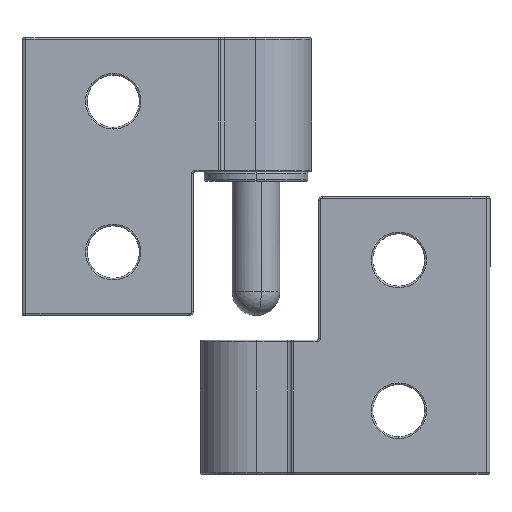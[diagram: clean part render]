
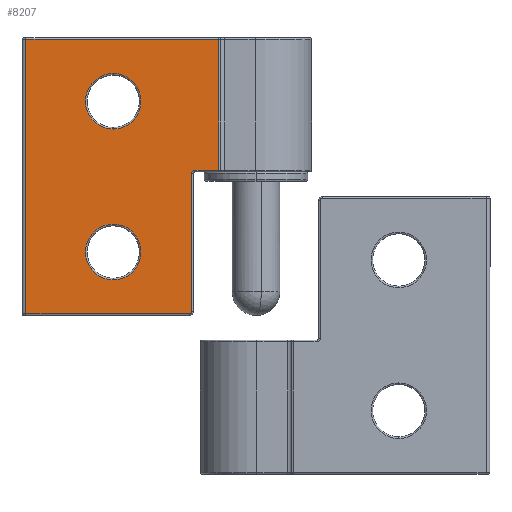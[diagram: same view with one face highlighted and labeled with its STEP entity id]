
A CAD part, front view. The second image highlights one B-rep face of the part: STEP entity #8207.
In plain terms, the highlighted planar face has unit normal (0, -1, 0).
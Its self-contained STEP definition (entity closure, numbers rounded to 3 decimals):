
#205 = CARTESIAN_POINT ( 'NONE',  ( -4.693, -8.4, 0.8 ) ) ;
#314 = ORIENTED_EDGE ( 'NONE', *, *, #11464, .T. ) ;
#417 = CIRCLE ( 'NONE', #7999, 3.5 ) ;
#663 = ORIENTED_EDGE ( 'NONE', *, *, #11559, .T. ) ;
#788 = CARTESIAN_POINT ( 'NONE',  ( -18., -8.4, 6. ) ) ;
#923 = VERTEX_POINT ( 'NONE', #11257 ) ;
#1021 = CARTESIAN_POINT ( 'NONE',  ( -4.693, -8.4, 17.3 ) ) ;
#1042 = EDGE_CURVE ( 'NONE', #3013, #5139, #11842, .T. ) ;
#1138 = CARTESIAN_POINT ( 'NONE',  ( -29.5, -8.4, 17.5 ) ) ;
#1333 = DIRECTION ( 'NONE',  ( 0., 0., 1. ) ) ;
#1477 = ORIENTED_EDGE ( 'NONE', *, *, #6674, .T. ) ;
#1500 = EDGE_CURVE ( 'NONE', #7447, #923, #2144, .T. ) ;
#1663 = LINE ( 'NONE', #10480, #4061 ) ;
#1726 = DIRECTION ( 'NONE',  ( 0., 0., 1. ) ) ;
#2004 = AXIS2_PLACEMENT_3D ( 'NONE', #9577, #10711, #11712 ) ;
#2144 = CIRCLE ( 'NONE', #10567, 0.4 ) ;
#2219 = EDGE_CURVE ( 'NONE', #12047, #10830, #11024, .T. ) ;
#2902 = EDGE_CURVE ( 'NONE', #10836, #6673, #3711, .T. ) ;
#2903 = ORIENTED_EDGE ( 'NONE', *, *, #2902, .T. ) ;
#3013 = VERTEX_POINT ( 'NONE', #8101 ) ;
#3202 = VERTEX_POINT ( 'NONE', #6336 ) ;
#3277 = CARTESIAN_POINT ( 'NONE',  ( -18., -8.4, -13. ) ) ;
#3279 = DIRECTION ( 'NONE',  ( 0., -1., 0. ) ) ;
#3404 = CARTESIAN_POINT ( 'NONE',  ( -18., -8.4, 9.5 ) ) ;
#3664 = FACE_BOUND ( 'NONE', #12398, .T. ) ;
#3685 = ORIENTED_EDGE ( 'NONE', *, *, #10591, .T. ) ;
#3711 = CIRCLE ( 'NONE', #6681, 3.5 ) ;
#3739 = ORIENTED_EDGE ( 'NONE', *, *, #9355, .T. ) ;
#3746 = VECTOR ( 'NONE', #12756, 1000. ) ;
#4061 = VECTOR ( 'NONE', #11480, 1000. ) ;
#4196 = CIRCLE ( 'NONE', #11568, 3.5 ) ;
#4236 = PLANE ( 'NONE',  #8740 ) ;
#4265 = DIRECTION ( 'NONE',  ( 1., 0., 0. ) ) ;
#4418 = DIRECTION ( 'NONE',  ( 0., 1., 0. ) ) ;
#4660 = CARTESIAN_POINT ( 'NONE',  ( -7.7, -8.4, 0.8 ) ) ;
#4728 = LINE ( 'NONE', #10476, #12378 ) ;
#4748 = LINE ( 'NONE', #5018, #6391 ) ;
#5018 = CARTESIAN_POINT ( 'NONE',  ( -29.5, -8.4, 17.3 ) ) ;
#5139 = VERTEX_POINT ( 'NONE', #13075 ) ;
#5407 = CARTESIAN_POINT ( 'NONE',  ( -4.693, -8.4, 17.5 ) ) ;
#5522 = CARTESIAN_POINT ( 'NONE',  ( -8.1, -8.4, 17.5 ) ) ;
#5534 = VECTOR ( 'NONE', #11779, 1000. ) ;
#5722 = DIRECTION ( 'NONE',  ( 0., 0., 1. ) ) ;
#5828 = DIRECTION ( 'NONE',  ( 0., 1., 0. ) ) ;
#5850 = VERTEX_POINT ( 'NONE', #6209 ) ;
#5855 = LINE ( 'NONE', #5522, #5534 ) ;
#6207 = ORIENTED_EDGE ( 'NONE', *, *, #1042, .T. ) ;
#6209 = CARTESIAN_POINT ( 'NONE',  ( -29., -8.4, -17.3 ) ) ;
#6336 = CARTESIAN_POINT ( 'NONE',  ( -29., -8.4, 17.3 ) ) ;
#6391 = VECTOR ( 'NONE', #13239, 1000. ) ;
#6673 = VERTEX_POINT ( 'NONE', #788 ) ;
#6674 = EDGE_CURVE ( 'NONE', #11043, #3202, #4748, .T. ) ;
#6681 = AXIS2_PLACEMENT_3D ( 'NONE', #6913, #9113, #9071 ) ;
#6913 = CARTESIAN_POINT ( 'NONE',  ( -18., -8.4, 9.5 ) ) ;
#6924 = VERTEX_POINT ( 'NONE', #205 ) ;
#7061 = EDGE_CURVE ( 'NONE', #5850, #3202, #8491, .T. ) ;
#7080 = FACE_BOUND ( 'NONE', #9901, .T. ) ;
#7447 = VERTEX_POINT ( 'NONE', #4660 ) ;
#7753 = DIRECTION ( 'NONE',  ( 0., 1., 0. ) ) ;
#7904 = CARTESIAN_POINT ( 'NONE',  ( -18., -8.4, -9.5 ) ) ;
#7999 = AXIS2_PLACEMENT_3D ( 'NONE', #3404, #10601, #10554 ) ;
#8028 = FACE_OUTER_BOUND ( 'NONE', #12347, .T. ) ;
#8101 = CARTESIAN_POINT ( 'NONE',  ( -8.4, -8.4, -17.3 ) ) ;
#8151 = VECTOR ( 'NONE', #13085, 1000. ) ;
#8207 = ADVANCED_FACE ( 'NONE', ( #7080, #3664, #8028 ), #4236, .F. ) ;
#8491 = LINE ( 'NONE', #12081, #8151 ) ;
#8630 = ORIENTED_EDGE ( 'NONE', *, *, #1500, .F. ) ;
#8740 = AXIS2_PLACEMENT_3D ( 'NONE', #1138, #4418, #9400 ) ;
#8791 = CARTESIAN_POINT ( 'NONE',  ( -18., -8.4, 13. ) ) ;
#9071 = DIRECTION ( 'NONE',  ( 0., 0., 1. ) ) ;
#9113 = DIRECTION ( 'NONE',  ( 0., 1., 0. ) ) ;
#9201 = ORIENTED_EDGE ( 'NONE', *, *, #12564, .T. ) ;
#9242 = LINE ( 'NONE', #5407, #3746 ) ;
#9355 = EDGE_CURVE ( 'NONE', #6673, #10836, #417, .T. ) ;
#9400 = DIRECTION ( 'NONE',  ( 0., 0., 1. ) ) ;
#9577 = CARTESIAN_POINT ( 'NONE',  ( -8.4, -8.4, -17. ) ) ;
#9901 = EDGE_LOOP ( 'NONE', ( #9201, #13332 ) ) ;
#10369 = ORIENTED_EDGE ( 'NONE', *, *, #7061, .F. ) ;
#10476 = CARTESIAN_POINT ( 'NONE',  ( -29.5, -8.4, 0.8 ) ) ;
#10480 = CARTESIAN_POINT ( 'NONE',  ( -8.4, -8.4, -17.3 ) ) ;
#10554 = DIRECTION ( 'NONE',  ( 0., 0., 1. ) ) ;
#10567 = AXIS2_PLACEMENT_3D ( 'NONE', #10605, #3279, #1333 ) ;
#10591 = EDGE_CURVE ( 'NONE', #7447, #6924, #4728, .T. ) ;
#10601 = DIRECTION ( 'NONE',  ( 0., 1., 0. ) ) ;
#10605 = CARTESIAN_POINT ( 'NONE',  ( -7.7, -8.4, 0.4 ) ) ;
#10711 = DIRECTION ( 'NONE',  ( 0., -1., 0. ) ) ;
#10830 = VERTEX_POINT ( 'NONE', #12933 ) ;
#10836 = VERTEX_POINT ( 'NONE', #8791 ) ;
#11006 = CARTESIAN_POINT ( 'NONE',  ( -18., -8.4, -9.5 ) ) ;
#11024 = CIRCLE ( 'NONE', #11095, 3.5 ) ;
#11043 = VERTEX_POINT ( 'NONE', #1021 ) ;
#11095 = AXIS2_PLACEMENT_3D ( 'NONE', #7904, #5828, #1726 ) ;
#11257 = CARTESIAN_POINT ( 'NONE',  ( -8.1, -8.4, 0.4 ) ) ;
#11306 = EDGE_CURVE ( 'NONE', #5139, #923, #5855, .T. ) ;
#11464 = EDGE_CURVE ( 'NONE', #5850, #3013, #1663, .T. ) ;
#11480 = DIRECTION ( 'NONE',  ( 1., 0., 0. ) ) ;
#11559 = EDGE_CURVE ( 'NONE', #6924, #11043, #9242, .T. ) ;
#11568 = AXIS2_PLACEMENT_3D ( 'NONE', #11006, #7753, #5722 ) ;
#11712 = DIRECTION ( 'NONE',  ( 0., 0., 1. ) ) ;
#11779 = DIRECTION ( 'NONE',  ( 0., 0., 1. ) ) ;
#11842 = CIRCLE ( 'NONE', #2004, 0.3 ) ;
#12047 = VERTEX_POINT ( 'NONE', #3277 ) ;
#12081 = CARTESIAN_POINT ( 'NONE',  ( -29., -8.4, -17.5 ) ) ;
#12347 = EDGE_LOOP ( 'NONE', ( #3685, #663, #1477, #10369, #314, #6207, #12916, #8630 ) ) ;
#12378 = VECTOR ( 'NONE', #4265, 1000. ) ;
#12398 = EDGE_LOOP ( 'NONE', ( #2903, #3739 ) ) ;
#12564 = EDGE_CURVE ( 'NONE', #10830, #12047, #4196, .T. ) ;
#12756 = DIRECTION ( 'NONE',  ( 0., 0., 1. ) ) ;
#12916 = ORIENTED_EDGE ( 'NONE', *, *, #11306, .T. ) ;
#12933 = CARTESIAN_POINT ( 'NONE',  ( -18., -8.4, -6. ) ) ;
#13075 = CARTESIAN_POINT ( 'NONE',  ( -8.1, -8.4, -17. ) ) ;
#13085 = DIRECTION ( 'NONE',  ( 0., 0., 1. ) ) ;
#13239 = DIRECTION ( 'NONE',  ( -1., 0., 0. ) ) ;
#13332 = ORIENTED_EDGE ( 'NONE', *, *, #2219, .T. ) ;
